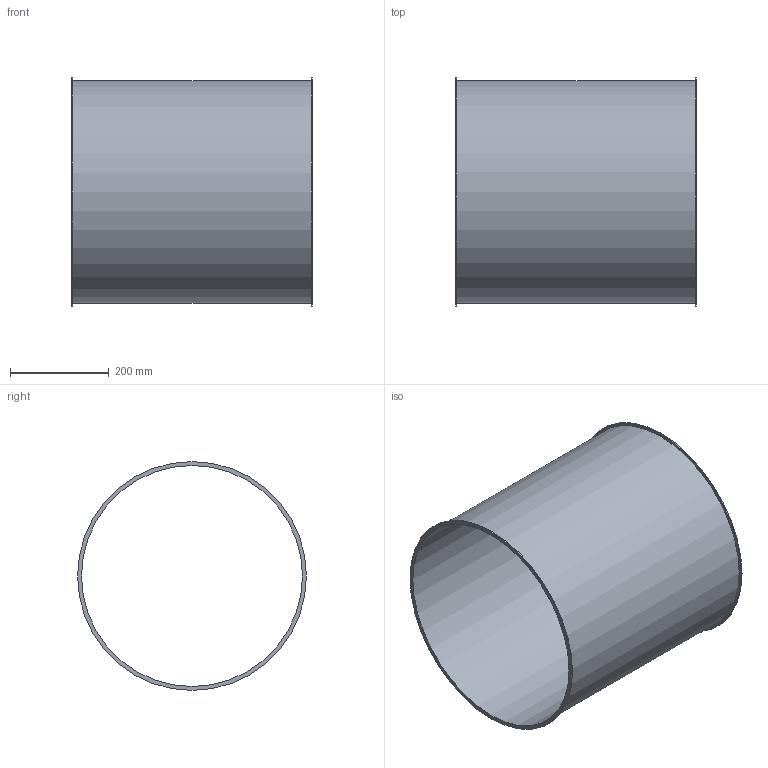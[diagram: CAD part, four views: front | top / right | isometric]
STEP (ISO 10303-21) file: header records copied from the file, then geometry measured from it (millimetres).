
FILE_DESCRIPTION((''),'2;1');
FILE_NAME('U:\Wolfgang\Marcel-3D\fertig\Kapitel 1\4521003.stp','2010-05-31T12:37:50',('TK2'),(''),'Autodesk Inventor 2010','Autodesk Inventor 2010','');
FILE_SCHEMA(('AUTOMOTIVE_DESIGN { 1 0 10303 214 1 1 1 1 }'));
Length unit declared in the file: millimetre
Products named in the file (1): 4521003
Bounding box: 488 x 464 x 464 mm (x, y, z)
Volume: 1414319.9 mm3; surface area: 1420125.5 mm2
Topology: 1 solids, 1 shells, 8 faces, 12 edges, 8 vertices
Faces by surface type: cylinder 4, plane 4
Full cylindrical faces by diameter (mm): 448 x1, 452 x1, 464 x2
Entity records: 194 total; most frequent: DIRECTION 34, CARTESIAN_POINT 25, AXIS2_PLACEMENT_3D 17, ORIENTED_EDGE 16, EDGE_LOOP 16, VERTEX_POINT 8, CIRCLE 8, EDGE_CURVE 8
